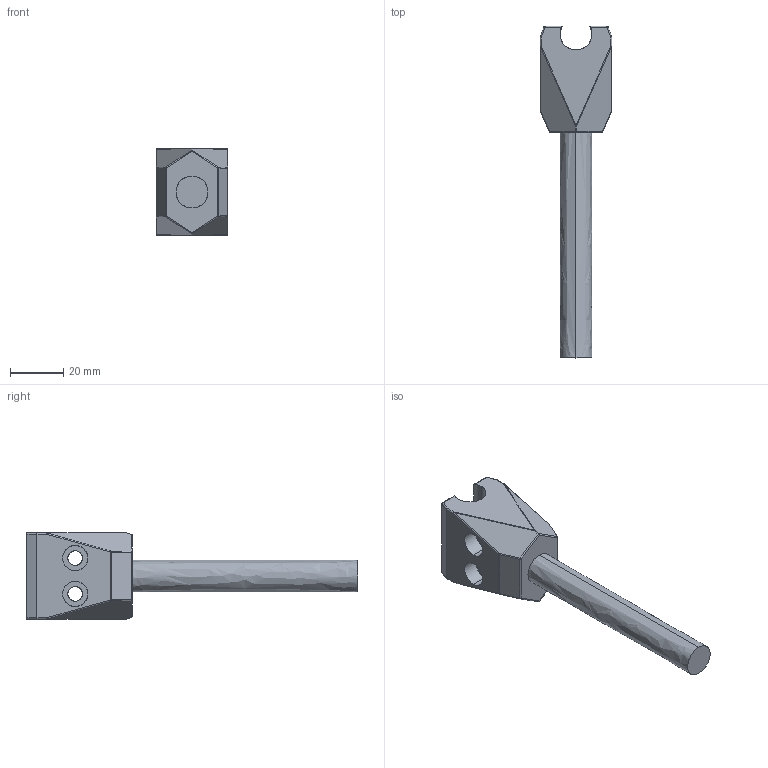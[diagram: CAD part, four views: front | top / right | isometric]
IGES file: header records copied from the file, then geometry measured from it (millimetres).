
Start section: SolidWorks IGES file using analytic representation for surfaces
Global section: file name: C:\Documents and Settings\ARGE\Desktop\yeni katalog tolgay düzenli\B kataloðu\dar sirtli mengene tekli cubuk milli\export\210 DYT M12.IGS; native system: SolidWorks 2006 by SolidWorks Corporation; preprocessor: SolidWorks 2006 by SolidWorks Corporation; author: ARGE2; date: 060911.121839; units: millimetre
Bounding box: 27 x 125 x 32.5 mm (x, y, z)
Surface area: 11103.4 mm2 (no closed solid volume)
Topology: 0 solids, 0 shells, 116 faces, 1014 edges, 1000 vertices
Faces by surface type: revolution 76, bspline 40
